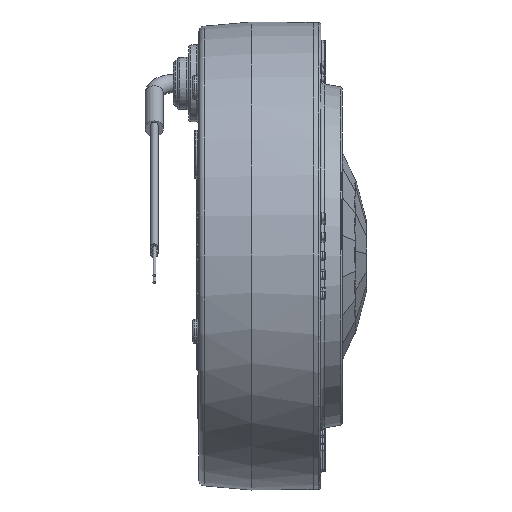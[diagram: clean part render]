
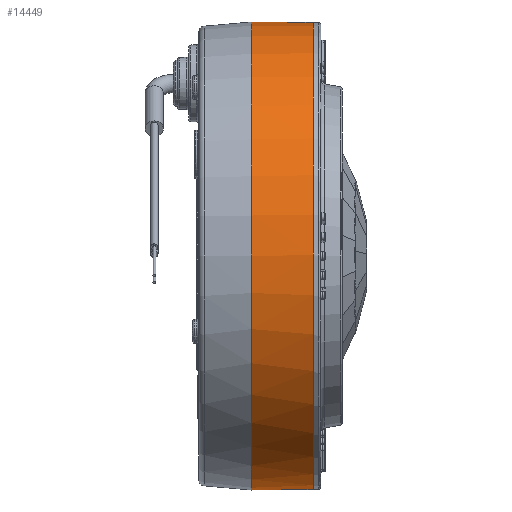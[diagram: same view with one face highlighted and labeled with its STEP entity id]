
A CAD part, left-side view. The second image highlights one B-rep face of the part: STEP entity #14449.
In plain terms, the highlighted conical face has half-angle 0.5 degrees and reference radius 57.566 mm.
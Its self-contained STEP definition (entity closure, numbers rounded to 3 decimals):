
#342=B_SPLINE_CURVE_WITH_KNOTS('',3,(#21771,#21772,#21773,#21774,#21775,
#21776,#21777,#21778,#21779,#21780,#21781,#21782,#21783,#21784,#21785,#21786,
#21787,#21788,#21789,#21790,#21791,#21792,#21793,#21794,#21795),
 .UNSPECIFIED.,.F.,.F.,(4,3,3,3,3,3,3,3,4),(0.301,0.347,
0.377,0.427,0.457,0.502,
0.532,0.582,0.603),.UNSPECIFIED.);
#620=CONICAL_SURFACE('',#15461,57.566,0.5);
#975=LINE('',#21769,#1854);
#976=LINE('',#21796,#1855);
#977=LINE('',#21800,#1856);
#978=LINE('',#21804,#1857);
#1854=VECTOR('',#17201,10.);
#1855=VECTOR('',#17202,10.);
#1856=VECTOR('',#17205,10.);
#1857=VECTOR('',#17208,10.);
#3120=FACE_BOUND('',#4390,.T.);
#3449=FACE_OUTER_BOUND('',#4389,.T.);
#4389=EDGE_LOOP('',(#9795));
#4390=EDGE_LOOP('',(#9796,#9797,#9798,#9799,#9800,#9801,#9802,#9803,#9804,
#9805));
#5442=CIRCLE('',#15325,57.5);
#5443=CIRCLE('',#15326,57.5);
#5498=CIRCLE('',#15462,57.633);
#5499=CIRCLE('',#15463,57.5);
#5500=CIRCLE('',#15464,57.5);
#5501=CIRCLE('',#15465,57.5);
#6066=VERTEX_POINT('',#20582);
#6068=VERTEX_POINT('',#20586);
#6069=VERTEX_POINT('',#20588);
#6072=VERTEX_POINT('',#20594);
#6279=VERTEX_POINT('',#21766);
#6280=VERTEX_POINT('',#21768);
#6281=VERTEX_POINT('',#21770);
#6282=VERTEX_POINT('',#21797);
#6283=VERTEX_POINT('',#21799);
#6284=VERTEX_POINT('',#21801);
#6285=VERTEX_POINT('',#21803);
#7380=EDGE_CURVE('',#6068,#6069,#5442,.T.);
#7384=EDGE_CURVE('',#6072,#6066,#5443,.T.);
#7655=EDGE_CURVE('',#6279,#6279,#5498,.T.);
#7656=EDGE_CURVE('',#6072,#6280,#975,.T.);
#7657=EDGE_CURVE('',#6280,#6281,#342,.T.);
#7658=EDGE_CURVE('',#6281,#6069,#976,.T.);
#7659=EDGE_CURVE('',#6282,#6068,#5499,.T.);
#7660=EDGE_CURVE('',#6283,#6282,#977,.T.);
#7661=EDGE_CURVE('',#6284,#6283,#5500,.T.);
#7662=EDGE_CURVE('',#6285,#6284,#978,.T.);
#7663=EDGE_CURVE('',#6066,#6285,#5501,.T.);
#9795=ORIENTED_EDGE('',*,*,#7655,.F.);
#9796=ORIENTED_EDGE('',*,*,#7656,.T.);
#9797=ORIENTED_EDGE('',*,*,#7657,.T.);
#9798=ORIENTED_EDGE('',*,*,#7658,.T.);
#9799=ORIENTED_EDGE('',*,*,#7380,.F.);
#9800=ORIENTED_EDGE('',*,*,#7659,.F.);
#9801=ORIENTED_EDGE('',*,*,#7660,.F.);
#9802=ORIENTED_EDGE('',*,*,#7661,.F.);
#9803=ORIENTED_EDGE('',*,*,#7662,.F.);
#9804=ORIENTED_EDGE('',*,*,#7663,.F.);
#9805=ORIENTED_EDGE('',*,*,#7384,.F.);
#14449=ADVANCED_FACE('',(#3449,#3120),#620,.T.);
#15325=AXIS2_PLACEMENT_3D('',#20589,#16796,#16797);
#15326=AXIS2_PLACEMENT_3D('',#20596,#16801,#16802);
#15461=AXIS2_PLACEMENT_3D('',#21765,#17197,#17198);
#15462=AXIS2_PLACEMENT_3D('',#21767,#17199,#17200);
#15463=AXIS2_PLACEMENT_3D('',#21798,#17203,#17204);
#15464=AXIS2_PLACEMENT_3D('',#21802,#17206,#17207);
#15465=AXIS2_PLACEMENT_3D('',#21805,#17209,#17210);
#16796=DIRECTION('center_axis',(0.,-1.,0.));
#16797=DIRECTION('ref_axis',(0.,0.,
-1.));
#16801=DIRECTION('center_axis',(0.,-1.,0.));
#16802=DIRECTION('ref_axis',(0.,0.,
-1.));
#17197=DIRECTION('center_axis',(0.,1.,0.));
#17198=DIRECTION('ref_axis',(0.,0.,
-1.));
#17199=DIRECTION('center_axis',(0.,1.,0.));
#17200=DIRECTION('ref_axis',(0.,0.,
-1.));
#17201=DIRECTION('',(0.,1.,-0.009));
#17202=DIRECTION('',(0.,-1.,0.009));
#17203=DIRECTION('center_axis',(0.,-1.,
0.));
#17204=DIRECTION('ref_axis',(0.,0.,
-1.));
#17205=DIRECTION('',(-0.004,0.001,-1.));
#17206=DIRECTION('center_axis',(0.,-1.,0.));
#17207=DIRECTION('ref_axis',(-0.004,0.,
-1.));
#17208=DIRECTION('',(0.004,-0.001,1.));
#17209=DIRECTION('center_axis',(0.,-1.,
0.));
#17210=DIRECTION('ref_axis',(0.,0.,
-1.));
#20582=CARTESIAN_POINT('',(57.499,-8.762,-0.276));
#20586=CARTESIAN_POINT('',(-57.5,-8.762,0.218));
#20588=CARTESIAN_POINT('',(-1.,-8.762,-57.491));
#20589=CARTESIAN_POINT('Origin',(0.,-8.762,
0.));
#20594=CARTESIAN_POINT('',(1.,-8.762,-57.491));
#20596=CARTESIAN_POINT('Origin',(0.,-8.762,
0.));
#21765=CARTESIAN_POINT('Origin',(0.,-1.162,
0.));
#21766=CARTESIAN_POINT('',(-57.633,6.438,0.));
#21767=CARTESIAN_POINT('Origin',(0.,6.438,
0.));
#21768=CARTESIAN_POINT('',(1.,1.238,-57.579));
#21769=CARTESIAN_POINT('',(1.,-3.762,-57.535));
#21770=CARTESIAN_POINT('',(-1.,1.238,-57.579));
#21771=CARTESIAN_POINT('Ctrl Pts',(1.,1.238,-57.579));
#21772=CARTESIAN_POINT('Ctrl Pts',(1.,1.39,-57.58));
#21773=CARTESIAN_POINT('Ctrl Pts',(0.962,1.555,-57.582));
#21774=CARTESIAN_POINT('Ctrl Pts',(0.888,1.698,-57.584));
#21775=CARTESIAN_POINT('Ctrl Pts',(0.839,1.792,-57.586));
#21776=CARTESIAN_POINT('Ctrl Pts',(0.776,1.877,-57.588));
#21777=CARTESIAN_POINT('Ctrl Pts',(0.705,1.947,-57.589));
#21778=CARTESIAN_POINT('Ctrl Pts',(0.586,2.066,-57.592));
#21779=CARTESIAN_POINT('Ctrl Pts',(0.423,2.161,-57.594));
#21780=CARTESIAN_POINT('Ctrl Pts',(0.251,2.206,-57.595));
#21781=CARTESIAN_POINT('Ctrl Pts',(0.152,2.232,-57.596));
#21782=CARTESIAN_POINT('Ctrl Pts',(0.052,2.242,
-57.596));
#21783=CARTESIAN_POINT('Ctrl Pts',(-0.046,2.237,
-57.596));
#21784=CARTESIAN_POINT('Ctrl Pts',(-0.201,2.23,
-57.596));
#21785=CARTESIAN_POINT('Ctrl Pts',(-0.364,2.183,
-57.595));
#21786=CARTESIAN_POINT('Ctrl Pts',(-0.503,2.102,-57.593));
#21787=CARTESIAN_POINT('Ctrl Pts',(-0.592,2.051,-57.591));
#21788=CARTESIAN_POINT('Ctrl Pts',(-0.67,1.987,
-57.59));
#21789=CARTESIAN_POINT('Ctrl Pts',(-0.737,1.914,
-57.588));
#21790=CARTESIAN_POINT('Ctrl Pts',(-0.852,1.789,
-57.586));
#21791=CARTESIAN_POINT('Ctrl Pts',(-0.94,1.622,
-57.583));
#21792=CARTESIAN_POINT('Ctrl Pts',(-0.977,1.449,
-57.581));
#21793=CARTESIAN_POINT('Ctrl Pts',(-0.993,1.378,
-57.58));
#21794=CARTESIAN_POINT('Ctrl Pts',(-1.,1.307,-57.579));
#21795=CARTESIAN_POINT('Ctrl Pts',(-1.,1.238,-57.579));
#21796=CARTESIAN_POINT('',(-1.,-3.762,-57.535));
#21797=CARTESIAN_POINT('',(-57.5,-8.762,0.235));
#21798=CARTESIAN_POINT('Origin',(0.,-8.762,
0.));
#21799=CARTESIAN_POINT('',(-57.499,-8.762,0.246));
#21800=CARTESIAN_POINT('',(-57.499,-8.762,0.246));
#21801=CARTESIAN_POINT('',(57.499,-8.762,-0.247));
#21802=CARTESIAN_POINT('Origin',(0.,-8.762,
0.));
#21803=CARTESIAN_POINT('',(57.499,-8.762,-0.258));
#21804=CARTESIAN_POINT('',(57.499,-8.762,-0.258));
#21805=CARTESIAN_POINT('Origin',(0.,-8.762,
0.));
